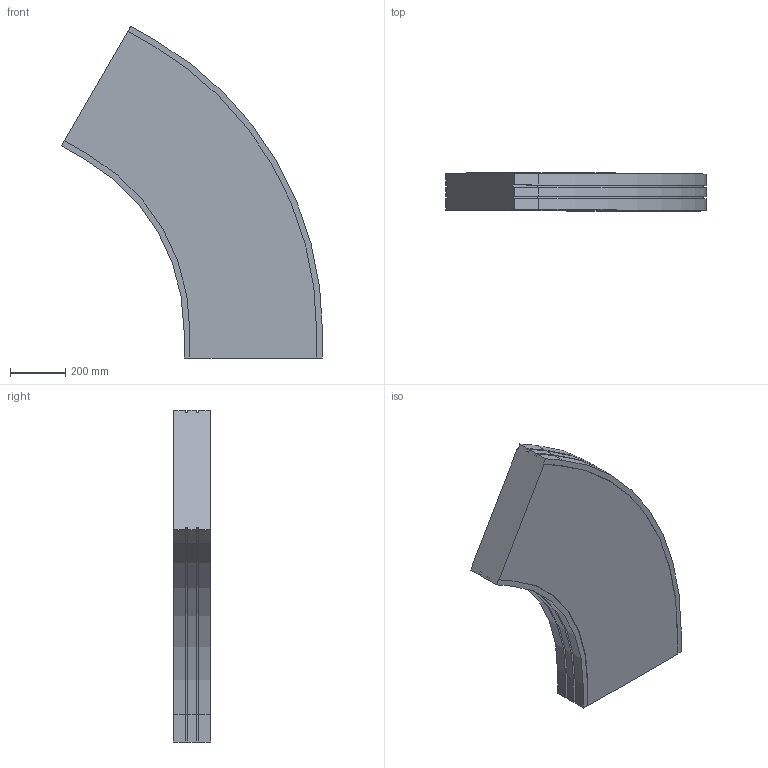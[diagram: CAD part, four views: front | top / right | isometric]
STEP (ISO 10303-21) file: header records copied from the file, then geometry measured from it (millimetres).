
FILE_DESCRIPTION (( 'STEP AP214' ), '1' );
FILE_NAME ('02.150H60.500.N FS-MTC-150 Bocht horizontaal 60°.STEP', '2013-03-29T11:18:53', ( 'Gebruiker' ), ( '' ), 'SwSTEP 2.0', 'SolidWorks 2012', '' );
FILE_SCHEMA (( 'AUTOMOTIVE_DESIGN' ));
Length unit declared in the file: millimetre
Products named in the file (1): 02.150H60.500.N FS-MTC-150 Bocht horizontaal 60°
Bounding box: 940.85 x 136 x 1197.46 mm (x, y, z)
Volume: 81094438.5 mm3; surface area: 1771372.5 mm2
Topology: 1 solids, 1 shells, 58 faces, 168 edges, 112 vertices
Faces by surface type: plane 44, cylinder 14
Entity records: 1934 total; most frequent: CARTESIAN_POINT 339, ORIENTED_EDGE 336, DIRECTION 314, EDGE_CURVE 168, LINE 140, VECTOR 140, VERTEX_POINT 112, AXIS2_PLACEMENT_3D 87
